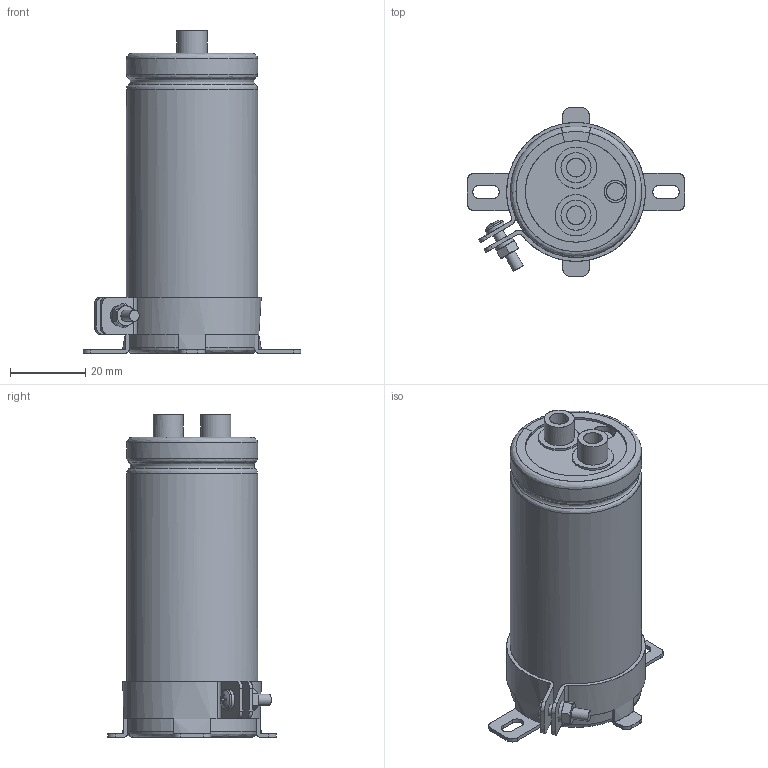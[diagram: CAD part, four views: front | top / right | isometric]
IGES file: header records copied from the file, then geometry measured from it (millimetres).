
Start section: JAMA-IS VERSION  1.0
Bounding box: 58 x 45 x 86 mm (x, y, z)
Surface area: 33986.8 mm2 (no closed solid volume)
Topology: 0 solids, 0 shells, 171 faces, 3555 edges, 3522 vertices
Faces by surface type: bspline 171
